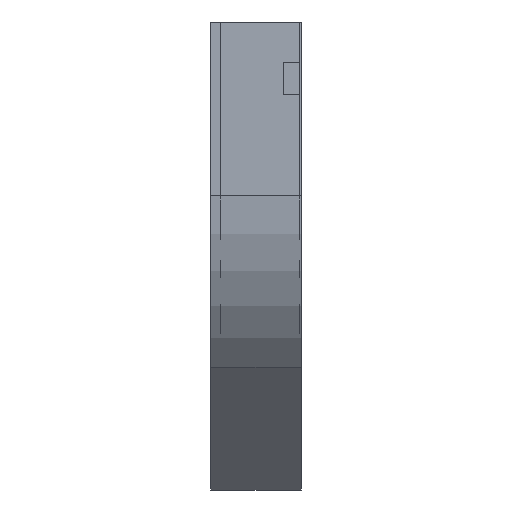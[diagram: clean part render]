
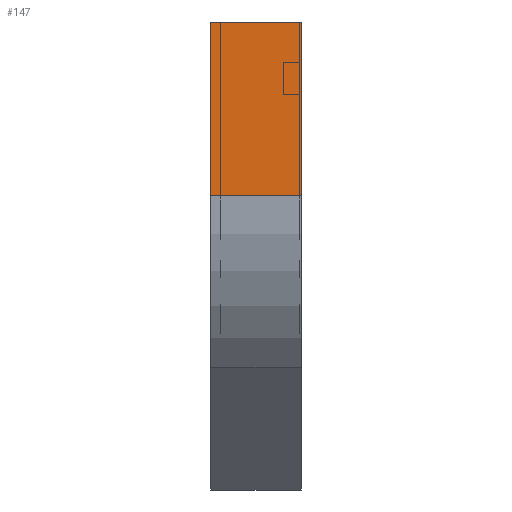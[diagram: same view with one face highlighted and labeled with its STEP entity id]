
A CAD part, left-side view. The second image highlights one B-rep face of the part: STEP entity #147.
In plain terms, the highlighted planar face has unit normal (-1, 0, 0).
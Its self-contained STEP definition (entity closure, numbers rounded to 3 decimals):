
#77 = CARTESIAN_POINT ( 'NONE',  ( 0., 0., 0. ) ) ;
#82 = DIRECTION ( 'NONE',  ( 0., 0., -1. ) ) ;
#136 = CARTESIAN_POINT ( 'NONE',  ( 0., 0., 0. ) ) ;
#147 = ADVANCED_FACE ( 'NONE', ( #781 ), #1520, .F. ) ;
#218 = LINE ( 'NONE', #276, #862 ) ;
#266 = LINE ( 'NONE', #136, #911 ) ;
#276 = CARTESIAN_POINT ( 'NONE',  ( 0., 112.5, 0. ) ) ;
#282 = VECTOR ( 'NONE', #519, 1000. ) ;
#310 = CARTESIAN_POINT ( 'NONE',  ( 0., 0., -215.685 ) ) ;
#428 = ORIENTED_EDGE ( 'NONE', *, *, #858, .F. ) ;
#435 = EDGE_LOOP ( 'NONE', ( #428, #1756, #469, #1533 ) ) ;
#469 = ORIENTED_EDGE ( 'NONE', *, *, #1335, .T. ) ;
#503 = EDGE_CURVE ( 'NONE', #1712, #568, #1150, .T. ) ;
#519 = DIRECTION ( 'NONE',  ( 0., -1., 0. ) ) ;
#538 = LINE ( 'NONE', #1368, #1334 ) ;
#568 = VERTEX_POINT ( 'NONE', #1087 ) ;
#744 = CARTESIAN_POINT ( 'NONE',  ( 0., 112.5, -215.685 ) ) ;
#781 = FACE_OUTER_BOUND ( 'NONE', #435, .T. ) ;
#858 = EDGE_CURVE ( 'NONE', #1737, #568, #538, .T. ) ;
#862 = VECTOR ( 'NONE', #1267, 1000. ) ;
#911 = VECTOR ( 'NONE', #1430, 1000. ) ;
#917 = VERTEX_POINT ( 'NONE', #1833 ) ;
#926 = DIRECTION ( 'NONE',  ( 1., 0., 0. ) ) ;
#1087 = CARTESIAN_POINT ( 'NONE',  ( 0., 0., -215.685 ) ) ;
#1097 = CARTESIAN_POINT ( 'NONE',  ( 0., 0., 0. ) ) ;
#1150 = LINE ( 'NONE', #310, #282 ) ;
#1208 = AXIS2_PLACEMENT_3D ( 'NONE', #1097, #926, #82 ) ;
#1267 = DIRECTION ( 'NONE',  ( 0., 0., -1. ) ) ;
#1334 = VECTOR ( 'NONE', #1795, 1000. ) ;
#1335 = EDGE_CURVE ( 'NONE', #917, #1712, #218, .T. ) ;
#1368 = CARTESIAN_POINT ( 'NONE',  ( 0., 0., 0. ) ) ;
#1430 = DIRECTION ( 'NONE',  ( 0., -1., 0. ) ) ;
#1520 = PLANE ( 'NONE',  #1208 ) ;
#1533 = ORIENTED_EDGE ( 'NONE', *, *, #503, .T. ) ;
#1712 = VERTEX_POINT ( 'NONE', #744 ) ;
#1737 = VERTEX_POINT ( 'NONE', #77 ) ;
#1756 = ORIENTED_EDGE ( 'NONE', *, *, #1797, .F. ) ;
#1795 = DIRECTION ( 'NONE',  ( 0., 0., -1. ) ) ;
#1797 = EDGE_CURVE ( 'NONE', #917, #1737, #266, .T. ) ;
#1833 = CARTESIAN_POINT ( 'NONE',  ( 0., 112.5, 0. ) ) ;
